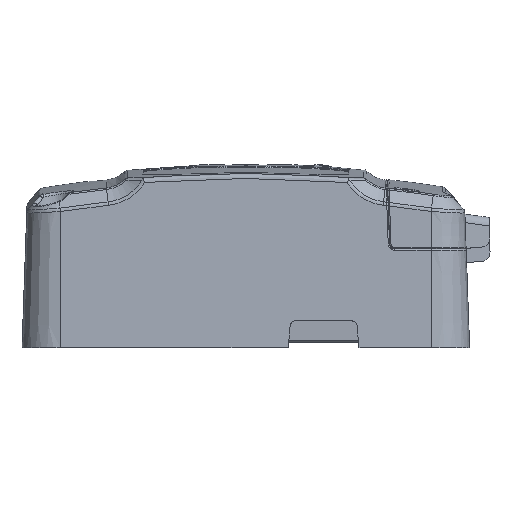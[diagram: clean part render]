
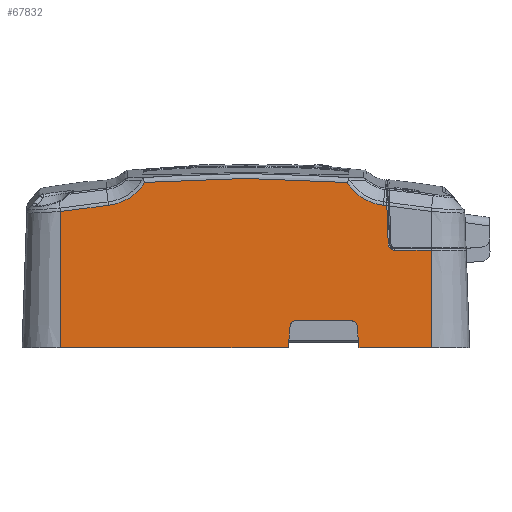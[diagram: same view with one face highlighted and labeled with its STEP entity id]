
A CAD part, left-side view. The second image highlights one B-rep face of the part: STEP entity #67832.
In plain terms, the highlighted planar face has unit normal (-0.999, 0, 0.035).
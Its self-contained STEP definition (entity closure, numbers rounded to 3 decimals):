
#115=ELLIPSE('',#70390,2.001,2.);
#117=ELLIPSE('',#70393,2.001,2.);
#131=ELLIPSE('',#70514,2.502,2.5);
#2475=PLANE('',#71118);
#5038=LINE('',#116849,#8609);
#5041=LINE('',#116854,#8612);
#5042=LINE('',#116856,#8613);
#5076=LINE('',#120187,#8647);
#5077=LINE('',#120243,#8648);
#5520=LINE('',#129881,#9091);
#5527=LINE('',#129901,#9098);
#5534=LINE('',#129964,#9105);
#5535=LINE('',#129965,#9106);
#8609=VECTOR('',#78198,1000.);
#8612=VECTOR('',#78203,1000.);
#8613=VECTOR('',#78206,1000.);
#8647=VECTOR('',#78466,1000.);
#8648=VECTOR('',#78483,1000.);
#9091=VECTOR('',#80096,1000.);
#9098=VECTOR('',#80115,1000.);
#9105=VECTOR('',#80136,1000.);
#9106=VECTOR('',#80137,1000.);
#21818=ORIENTED_EDGE('',*,*,#30013,.F.);
#21819=ORIENTED_EDGE('',*,*,#30006,.F.);
#21820=ORIENTED_EDGE('',*,*,#30016,.F.);
#21821=ORIENTED_EDGE('',*,*,#30002,.F.);
#21822=ORIENTED_EDGE('',*,*,#30017,.F.);
#21823=ORIENTED_EDGE('',*,*,#31602,.F.);
#21824=ORIENTED_EDGE('',*,*,#31594,.F.);
#21825=ORIENTED_EDGE('',*,*,#30348,.T.);
#21826=ORIENTED_EDGE('',*,*,#30350,.F.);
#21827=ORIENTED_EDGE('',*,*,#30356,.F.);
#21828=ORIENTED_EDGE('',*,*,#30566,.T.);
#21829=ORIENTED_EDGE('',*,*,#30565,.T.);
#21830=ORIENTED_EDGE('',*,*,#30662,.T.);
#21831=ORIENTED_EDGE('',*,*,#30638,.T.);
#21832=ORIENTED_EDGE('',*,*,#30635,.T.);
#21833=ORIENTED_EDGE('',*,*,#31584,.T.);
#21834=ORIENTED_EDGE('',*,*,#31603,.F.);
#30002=EDGE_CURVE('',#36072,#36073,#115,.T.);
#30006=EDGE_CURVE('',#36076,#36077,#117,.T.);
#30013=EDGE_CURVE('',#36077,#36083,#5038,.T.);
#30016=EDGE_CURVE('',#36073,#36076,#5041,.T.);
#30017=EDGE_CURVE('',#36084,#36072,#5042,.T.);
#30348=EDGE_CURVE('',#36317,#36320,#5076,.T.);
#30350=EDGE_CURVE('',#36322,#36320,#131,.T.);
#30356=EDGE_CURVE('',#36326,#36322,#5077,.T.);
#30565=EDGE_CURVE('',#36455,#36458,#39454,.T.);
#30566=EDGE_CURVE('',#36326,#36455,#39455,.T.);
#30635=EDGE_CURVE('',#36504,#36505,#39524,.T.);
#30638=EDGE_CURVE('',#36508,#36504,#39527,.T.);
#30662=EDGE_CURVE('',#36458,#36508,#39551,.T.);
#31584=EDGE_CURVE('',#36505,#37059,#5520,.T.);
#31594=EDGE_CURVE('',#36317,#37066,#5527,.T.);
#31602=EDGE_CURVE('',#37066,#36084,#5534,.T.);
#31603=EDGE_CURVE('',#36083,#37059,#5535,.T.);
#36072=VERTEX_POINT('',#116824);
#36073=VERTEX_POINT('',#116826);
#36076=VERTEX_POINT('',#116833);
#36077=VERTEX_POINT('',#116835);
#36083=VERTEX_POINT('',#116850);
#36084=VERTEX_POINT('',#116857);
#36317=VERTEX_POINT('',#120181);
#36320=VERTEX_POINT('',#120186);
#36322=VERTEX_POINT('',#120226);
#36326=VERTEX_POINT('',#120242);
#36455=VERTEX_POINT('',#122450);
#36458=VERTEX_POINT('',#122475);
#36504=VERTEX_POINT('',#123730);
#36505=VERTEX_POINT('',#123740);
#36508=VERTEX_POINT('',#123834);
#37059=VERTEX_POINT('',#129882);
#37066=VERTEX_POINT('',#129902);
#39454=B_SPLINE_CURVE_WITH_KNOTS('',3,(#122476,#122477,#122478,#122479,
#122480,#122481,#122482,#122483),.UNSPECIFIED.,.F.,.F.,(4,1,1,1,1,4),(0.,
0.004,0.009,0.011,0.013,
0.018),.UNSPECIFIED.);
#39455=B_SPLINE_CURVE_WITH_KNOTS('',3,(#122496,#122497,#122498,#122499),
 .UNSPECIFIED.,.F.,.F.,(4,4),(0.001,0.002),
 .UNSPECIFIED.);
#39524=B_SPLINE_CURVE_WITH_KNOTS('',3,(#123741,#123742,#123743,#123744),
 .UNSPECIFIED.,.F.,.F.,(4,4),(0.,1.),.UNSPECIFIED.);
#39527=B_SPLINE_CURVE_WITH_KNOTS('',3,(#123823,#123824,#123825,#123826,
#123827,#123828,#123829,#123830,#123831,#123832,#123833),.UNSPECIFIED.,
 .F.,.F.,(4,1,1,1,1,1,1,1,4),(0.,0.004,
0.007,0.009,0.011,0.013,
0.016,0.017,0.018),.UNSPECIFIED.);
#39551=B_SPLINE_CURVE_WITH_KNOTS('',3,(#124048,#124049,#124050,#124051),
 .UNSPECIFIED.,.F.,.F.,(4,4),(0.001,0.079),
 .UNSPECIFIED.);
#42470=EDGE_LOOP('',(#21818,#21819,#21820,#21821,#21822,#21823,#21824,#21825,
#21826,#21827,#21828,#21829,#21830,#21831,#21832,#21833,#21834));
#45480=FACE_BOUND('',#42470,.T.);
#67832=ADVANCED_FACE('',(#45480),#2475,.T.);
#70390=AXIS2_PLACEMENT_3D('',#116825,#78176,#78177);
#70393=AXIS2_PLACEMENT_3D('',#116834,#78184,#78185);
#70514=AXIS2_PLACEMENT_3D('',#120227,#78469,#78470);
#71118=AXIS2_PLACEMENT_3D('',#129963,#80134,#80135);
#78176=DIRECTION('',(-0.999,0.,0.035));
#78177=DIRECTION('',(0.035,0.,0.999));
#78184=DIRECTION('',(-0.999,0.,0.035));
#78185=DIRECTION('',(0.035,0.,0.999));
#78198=DIRECTION('',(-0.035,0.087,-0.996));
#78203=DIRECTION('',(0.,1.,0.));
#78206=DIRECTION('',(0.035,0.087,0.996));
#78466=DIRECTION('',(0.,1.,0.));
#78469=DIRECTION('',(-0.999,0.,0.035));
#78470=DIRECTION('',(0.035,0.,0.999));
#78483=DIRECTION('',(-0.035,-0.035,-0.999));
#80096=DIRECTION('',(-0.035,0.,-0.999));
#80115=DIRECTION('',(-0.035,0.,-0.999));
#80134=DIRECTION('',(-0.999,0.,0.035));
#80135=DIRECTION('',(0.035,0.,0.999));
#80136=DIRECTION('',(0.,1.,0.));
#80137=DIRECTION('',(0.,1.,0.));
#116824=CARTESIAN_POINT('',(-97.499,36.09,-24.076));
#116825=CARTESIAN_POINT('',(-97.506,38.083,-24.25));
#116826=CARTESIAN_POINT('',(-97.436,38.083,-22.25));
#116833=CARTESIAN_POINT('',(-97.436,59.917,-22.25));
#116834=CARTESIAN_POINT('',(-97.506,59.917,-24.25));
#116835=CARTESIAN_POINT('',(-97.499,61.91,-24.076));
#116849=CARTESIAN_POINT('',(-95.071,55.825,45.475));
#116850=CARTESIAN_POINT('',(-97.794,62.647,-32.5));
#116854=CARTESIAN_POINT('',(-97.436,79.,-22.25));
#116856=CARTESIAN_POINT('',(-94.889,42.63,50.678));
#116857=CARTESIAN_POINT('',(-97.794,35.353,-32.5));
#120181=CARTESIAN_POINT('',(-96.484,7.5,5.017));
#120186=CARTESIAN_POINT('',(-96.484,21.602,5.017));
#120187=CARTESIAN_POINT('',(-96.484,79.,5.017));
#120226=CARTESIAN_POINT('',(-96.399,24.1,7.43));
#120227=CARTESIAN_POINT('',(-96.396,21.602,7.517));
#120242=CARTESIAN_POINT('',(-95.883,24.617,22.217));
#120243=CARTESIAN_POINT('',(-95.885,24.614,22.144));
#122450=CARTESIAN_POINT('',(-95.878,25.993,22.369));
#122475=CARTESIAN_POINT('',(-95.571,39.994,31.146));
#122476=CARTESIAN_POINT('',(-95.878,25.993,22.369));
#122477=CARTESIAN_POINT('',(-95.872,27.483,22.517));
#122478=CARTESIAN_POINT('',(-95.849,30.36,23.183));
#122479=CARTESIAN_POINT('',(-95.79,33.72,24.871));
#122480=CARTESIAN_POINT('',(-95.729,36.09,26.626));
#122481=CARTESIAN_POINT('',(-95.657,38.279,28.676));
#122482=CARTESIAN_POINT('',(-95.596,39.602,30.44));
#122483=CARTESIAN_POINT('',(-95.551,40.343,31.726));
#122496=CARTESIAN_POINT('',(-95.883,24.617,22.217));
#122497=CARTESIAN_POINT('',(-95.881,25.076,22.268));
#122498=CARTESIAN_POINT('',(-95.879,25.534,22.319));
#122499=CARTESIAN_POINT('',(-95.878,25.993,22.369));
#123730=CARTESIAN_POINT('',(-95.879,131.994,22.328));
#123740=CARTESIAN_POINT('',(-95.962,150.5,19.952));
#123741=CARTESIAN_POINT('',(-95.879,131.994,22.328));
#123742=CARTESIAN_POINT('',(-95.902,138.14,21.658));
#123743=CARTESIAN_POINT('',(-95.93,144.309,20.866));
#123744=CARTESIAN_POINT('',(-95.962,150.5,19.952));
#123823=CARTESIAN_POINT('',(-95.551,117.603,31.732));
#123824=CARTESIAN_POINT('',(-95.596,118.349,30.432));
#123825=CARTESIAN_POINT('',(-95.658,119.685,28.648));
#123826=CARTESIAN_POINT('',(-95.731,121.896,26.58));
#123827=CARTESIAN_POINT('',(-95.777,123.696,25.253));
#123828=CARTESIAN_POINT('',(-95.816,125.644,24.135));
#123829=CARTESIAN_POINT('',(-95.847,127.73,23.246));
#123830=CARTESIAN_POINT('',(-95.865,129.516,22.73));
#123831=CARTESIAN_POINT('',(-95.875,130.985,22.446));
#123832=CARTESIAN_POINT('',(-95.878,131.732,22.354));
#123833=CARTESIAN_POINT('',(-95.879,132.108,22.317));
#123834=CARTESIAN_POINT('',(-95.571,117.951,31.151));
#124048=CARTESIAN_POINT('',(-95.571,39.994,31.146));
#124049=CARTESIAN_POINT('',(-95.5,65.933,33.19));
#124050=CARTESIAN_POINT('',(-95.5,92.013,33.191));
#124051=CARTESIAN_POINT('',(-95.571,117.951,31.151));
#129881=CARTESIAN_POINT('',(-95.,150.5,47.5));
#129882=CARTESIAN_POINT('',(-97.794,150.5,-32.5));
#129901=CARTESIAN_POINT('',(-95.,7.5,47.5));
#129902=CARTESIAN_POINT('',(-97.794,7.5,-32.5));
#129963=CARTESIAN_POINT('',(-95.,79.,47.5));
#129964=CARTESIAN_POINT('',(-97.794,79.,-32.5));
#129965=CARTESIAN_POINT('',(-97.794,79.,-32.5));
